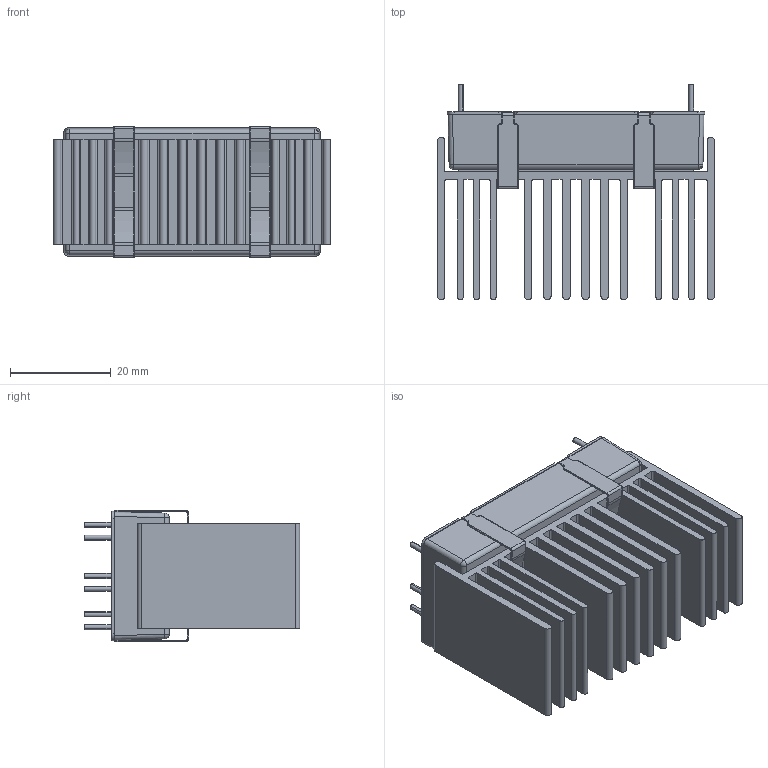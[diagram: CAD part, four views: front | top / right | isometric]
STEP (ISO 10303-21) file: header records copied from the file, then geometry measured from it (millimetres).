
FILE_DESCRIPTION (( 'STEP AP203' ), '1' );
FILE_NAME ('MKWI80S(D) 3D+HS ¥~Æ[(113.12.20).STEP', '2025-01-09T11:04:26', ( '' ), ( '' ), 'SwSTEP 2.0', 'SolidWorks 2021', '' );
FILE_SCHEMA (( 'CONFIG_CONTROL_DESIGN' ));
Length unit declared in the file: millimetre
Products named in the file (1): MKWI80S(D) 3D+HS 外觀(113.12.20)
Bounding box: 55 x 42.75 x 26 mm (x, y, z)
Volume: 26838.4 mm3; surface area: 25057.1 mm2
Topology: 5 solids, 5 shells, 404 faces, 1011 edges, 630 vertices
Faces by surface type: cylinder 192, plane 143, torus 64, sphere 4, cone 1
Entity records: 12169 total; most frequent: DIRECTION 2294, CARTESIAN_POINT 2063, ORIENTED_EDGE 2022, EDGE_CURVE 1011, AXIS2_PLACEMENT_3D 883, VERTEX_POINT 630, VECTOR 528, LINE 528
